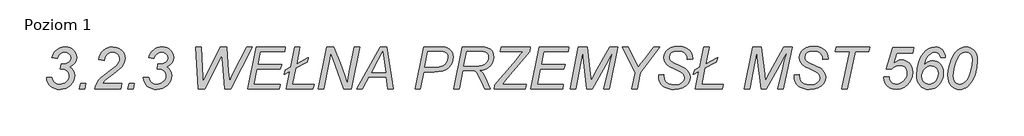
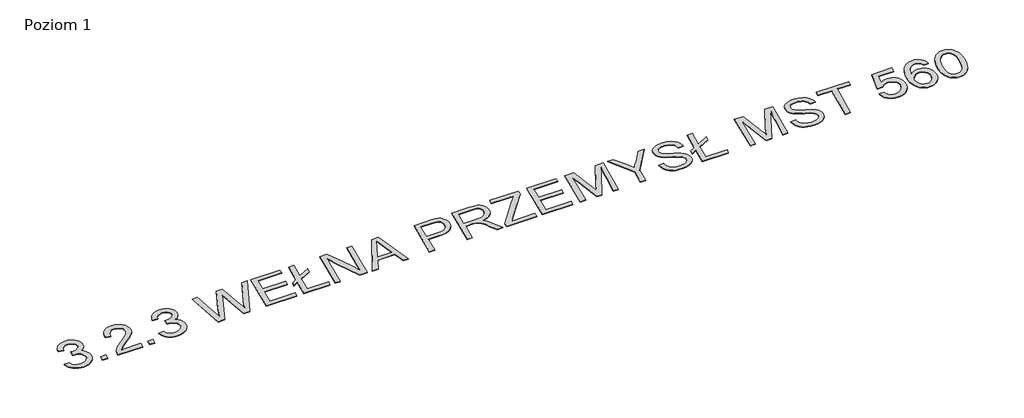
# One storey, part 2 of 2: 1 proxy.
"""IFC4 building model written with IfcOpenShell, lengths in millimetres."""

import ifcopenshell
import ifcopenshell.guid

model = None  # the IFC model being written
_history = None  # IfcOwnerHistory: only IFC2X3 demands one
_inside = {}  # id of a spatial element -> (the spatial element, [elements in it])
_under = {}  # id of a project, library or spatial element -> (it, [spatial elements below it])
_declared = {}  # id of a project -> (the project, [libraries it declares])
_typed = {}  # id of a type object -> (the type object, [elements of that type])
_made_of = {}  # id of a material, layer set ... -> (it, [elements and type objects made of it])


def new_model(schema):
    """Start an empty IFC model of exactly this schema.

    Asked for "IFC4X3", IfcOpenShell would pick the latest addendum, in which some entities
    have other attributes; the version numbers below select the first issue.
    IFC2X3 requires an IfcOwnerHistory on every rooted entity: one is made here for all.
    """
    global model, _history
    if schema == "IFC4X3":
        model = ifcopenshell.file(schema_version=(4, 3, 0, 0))
    else:
        model = ifcopenshell.file(schema=schema)
    _inside.clear()
    _under.clear()
    _declared.clear()
    _typed.clear()
    _made_of.clear()
    _history = None
    if model.schema == "IFC2X3":
        org = make("IfcOrganization", Name="unknown")
        user = make(
            "IfcPersonAndOrganization",
            ThePerson=make("IfcPerson", FamilyName="unknown"),
            TheOrganization=org,
        )
        app = make(
            "IfcApplication",
            ApplicationDeveloper=org,
            Version="unknown",
            ApplicationFullName="unknown",
            ApplicationIdentifier="unknown",
        )
        _history = make(
            "IfcOwnerHistory",
            OwningUser=user,
            OwningApplication=app,
            ChangeAction="ADDED",
            CreationDate=0,
        )
    return model


def make(cls, **values):
    """One entity of the class cls with the attributes given. An attribute that is None is left unset."""
    return model.create_entity(
        cls, **{name: value for name, value in values.items() if value is not None}
    )


def rooted(cls, **values):
    """An entity with a GlobalId (a new one), such as an element, a storey or a relation."""
    return make(cls, GlobalId=ifcopenshell.guid.new(), OwnerHistory=_history, **values)


def si_unit(unit_type, name, prefix=None):
    """IfcSIUnit, for example si_unit("LENGTHUNIT", "METRE", prefix="MILLI")."""
    return make("IfcSIUnit", UnitType=unit_type, Prefix=prefix, Name=name)


def assignment(units):
    """IfcUnitAssignment: the units of a project."""
    return None if units is None else make("IfcUnitAssignment", Units=units)


def point(xyz):
    """IfcCartesianPoint."""
    return None if xyz is None else make("IfcCartesianPoint", Coordinates=xyz)


def direction(xyz):
    """IfcDirection."""
    return None if xyz is None else make("IfcDirection", DirectionRatios=xyz)


def frame(location, z_axis=None, x_axis=None):
    """IfcAxis2Placement3D, a coordinate frame: its origin and axes. An axis left out is left unset."""
    return make(
        "IfcAxis2Placement3D",
        Location=point(location),
        Axis=direction(z_axis),
        RefDirection=direction(x_axis),
    )


def origin():
    """The frame at (0, 0, 0) with its axes left unset."""
    return frame((0.0, 0.0, 0.0))


def origin_with_axes():
    """The frame at (0, 0, 0) with the z axis (0, 0, 1) and the x axis (1, 0, 0) written out."""
    return frame((0.0, 0.0, 0.0), z_axis=(0.0, 0.0, 1.0), x_axis=(1.0, 0.0, 0.0))


def place(relative_to, where):
    """IfcLocalPlacement: puts the frame where relative to a parent placement (None: the world)."""
    return make(
        "IfcLocalPlacement", PlacementRelTo=relative_to, RelativePlacement=where
    )


def context(
    kind, dimensions, precision=None, world=None, true_north=None, identifier=None
):
    """IfcGeometricRepresentationContext, for example the 3D "Model" context."""
    return make(
        "IfcGeometricRepresentationContext",
        ContextIdentifier=identifier,
        ContextType=kind,
        CoordinateSpaceDimension=dimensions,
        Precision=precision,
        WorldCoordinateSystem=world,
        TrueNorth=true_north,
    )


def project(units=None, contexts=None):
    """IfcProject with its units and contexts."""
    return rooted(
        "IfcProject",
        Name="project",
        RepresentationContexts=contexts,
        UnitsInContext=assignment(units),
    )


def spatial(cls, under=None, at=None, **own):
    """A site, building, storey or space (cls), placed at a placement, below another one or the project."""
    s = rooted(cls, ObjectPlacement=at, **own)
    if under is not None:
        _under.setdefault(under.id(), (under, []))[1].append(s)
    return s


def polyline(points):
    """IfcPolyline through the points."""
    return make("IfcPolyline", Points=[point(p) for p in points])


def outline(outer, holes=None, kind="AREA"):
    """IfcArbitraryClosedProfileDef: a profile drawn as a closed curve; with holes, ...WithVoids."""
    if holes is None:
        return make("IfcArbitraryClosedProfileDef", ProfileType=kind, OuterCurve=outer)
    return make(
        "IfcArbitraryProfileDefWithVoids",
        ProfileType=kind,
        OuterCurve=outer,
        InnerCurves=holes,
    )


def extrude(swept, where, along, depth):
    """IfcExtrudedAreaSolid: the profile swept, set in the frame where, extruded along a direction by depth."""
    return make(
        "IfcExtrudedAreaSolid",
        SweptArea=swept,
        Position=where,
        ExtrudedDirection=direction(along),
        Depth=depth,
    )


def shape(context_of_items, identifier, shape_type, items):
    """IfcShapeRepresentation: the items that make up one representation, for example the "Body"."""
    return make(
        "IfcShapeRepresentation",
        ContextOfItems=context_of_items,
        RepresentationIdentifier=identifier,
        RepresentationType=shape_type,
        Items=items,
    )


def made_of(thing, what):
    """Note that an element or type object is made of a material, layer set ...; save() writes the relation."""
    if what is not None:
        _made_of.setdefault(what.id(), (what, []))[1].append(thing)
    return thing


def element(
    cls,
    number,
    at=None,
    inside=None,
    cuts=None,
    type_object=None,
    material=None,
    context=None,
    identifier="Body",
    shape_type=None,
    held_by="IfcProductDefinitionShape",
    body=None,
    shapes=None,
    **own,
):
    """One element of the class cls, such as IfcWall. Its Tag is "e" and its number.

    at: its placement. inside: the storey or other place that contains it. cuts: it is an
    opening in that element (IfcRelVoidsElement). A single representation is given by context,
    identifier, shape_type and body (its items); several are given by shapes. held_by: the class
    of the entity that holds the representations. save() writes the other relations.
    """
    e = rooted(cls, Tag="e%d" % number, ObjectPlacement=at, **own)
    if body is not None:
        shapes = [shape(context, identifier, shape_type, body)]
    if shapes is not None:
        e.Representation = make(held_by, Representations=shapes)
    if inside is not None:
        _inside.setdefault(inside.id(), (inside, []))[1].append(e)
    if cuts is not None:
        rooted(
            "IfcRelVoidsElement", RelatingBuildingElement=cuts, RelatedOpeningElement=e
        )
    if type_object is not None:
        _typed.setdefault(type_object.id(), (type_object, []))[1].append(e)
    return made_of(e, material)


def aggregate(whole, parts):
    """IfcRelAggregates: a whole, such as a stair, and the parts it consists of."""
    return rooted("IfcRelAggregates", RelatingObject=whole, RelatedObjects=parts)


def save(model, path):
    """Write the relations noted so far, then the file.

    IfcRelAggregates (storeys below a building ...), IfcRelContainedInSpatialStructure (elements
    in a storey), IfcRelDefinesByType, IfcRelAssociatesMaterial and IfcRelDeclares: one each for
    every whole, place, type object, material and project.
    """
    for whole, parts in _under.values():
        aggregate(whole, parts)
    for where, things in _inside.values():
        rooted(
            "IfcRelContainedInSpatialStructure",
            RelatedElements=things,
            RelatingStructure=where,
        )
    for kind, things in _typed.values():
        rooted("IfcRelDefinesByType", RelatedObjects=things, RelatingType=kind)
    for what, things in _made_of.values():
        rooted("IfcRelAssociatesMaterial", RelatedObjects=things, RelatingMaterial=what)
    for by, libraries in _declared.values():
        rooted("IfcRelDeclares", RelatingContext=by, RelatedDefinitions=libraries)
    model.write(path)


model = new_model("IFC4")

# Units and contexts
model_context = context("Model", 3, world=origin())
ifc_project = project(units=[si_unit("LENGTHUNIT", "METRE", prefix="MILLI")], contexts=[model_context])

# Site, building, storey
site = spatial("IfcSite", under=ifc_project)
building = spatial("IfcBuilding", under=site)
storey = spatial("IfcBuildingStorey", under=building, Name="Poziom 1", Elevation=0.0)

# Proxy
placement = place(None, origin())
element("IfcBuildingElementProxy", 1, Name="400 mm Arial", ObjectType="400 mm Arial", at=placement, inside=storey, context=model_context, shape_type="SweptSolid", body=[
    extrude(outline(polyline([(12935.3811978, 3434.5109693), (12984.3508948, 3434.5109693), (12993.2457811, 3406.3557846), (13008.8357432, 3387.501973), (13030.7382054, 3376.8496293), (13058.5705917, 3373.298848), (13093.1458758, 3379.2765943), (13108.5325946, 3386.748777), (13122.6520311, 3397.2098329), (13134.4521021, 3409.6017008), (13142.8807243, 3422.8663196), (13147.9378976, 3437.0036894), (13149.623622, 3452.0138102), (13144.7696921, 3476.6301691), (13130.2079023, 3496.536064), (13107.4685557, 3509.6990611), (13078.0819554, 3514.0867268), (13062.6832811, 3514.0867268), (13070.9086599, 3563.9172193), (13084.2031675, 3563.0564238), (13120.440265, 3567.2169352), (13146.7064819, 3579.6984693), (13162.6670643, 3598.2294825), (13167.9872584, 3620.5384314), (13163.4680823, 3641.0540564), (13149.9105539, 3658.0308556), (13129.8014156, 3669.4363954), (13105.6274099, 3673.238242), (13081.3577603, 3669.3527069), (13059.6226751, 3657.6961018), (13042.8132527, 3638.9379342), (13033.3205917, 3613.7477117), (12984.3508948, 3621.6861587), (12991.5929343, 3644.3328502), (13001.5548484, 3664.2596672), (13014.2366369, 3681.4666096), (13029.6383001, 3695.9536776), (13047.1680408, 3707.4399169), (13066.2340624, 3715.6443736), (13086.8363647, 3720.5670476), (13108.9749478, 3722.207939), (13131.9324821, 3720.4564593), (13152.6005396, 3715.2020204), (13170.9791204, 3706.4446222), (13187.0682243, 3694.1842647), (13200.1445441, 3679.3714096), (13209.4847726, 3662.9565185), (13215.0889097, 3644.9395914), (13216.9569554, 3625.3206283), (13212.9996874, 3597.3806426), (13201.1278834, 3573.2425033), (13181.1980775, 3552.9062107), (13153.0668039, 3536.3717647), (13173.1042092, 3520.961135), (13187.3073342, 3502.6572761), (13195.7718228, 3481.484099), (13198.593319, 3457.4655147), (13196.0617435, 3431.3905857), (13188.4670169, 3407.1089806), (13175.8091393, 3384.6206994), (13158.0881107, 3363.925742), (13136.8461895, 3346.6022335), (13113.6256343, 3334.2282988), (13088.4264452, 3326.803938), (13061.248622, 3324.3291511), (13035.2095595, 3326.2061634), (13011.8007054, 3331.8372003), (12991.0220595, 3341.2222619), (12972.873622, 3354.361348), (12957.9053455, 3370.6327732), (12946.6671826, 3389.4148518), (12939.1591334, 3410.7075838), (12935.3811978, 3434.5109693)])), origin_with_axes(), (0.0, 0.0, 1.0), 5.0),
    extrude(outline(polyline([(13242.2069554, 3330.4503632), (13253.6842281, 3379.4200602), (13302.6539251, 3379.4200602), (13292.1330917, 3330.4503632), (13242.2069554, 3330.4503632)])), origin_with_axes(), (0.0, 0.0, 1.0), 5.0),
    extrude(outline(polyline([(13388.3508948, 3330.4503632), (13397.4729355, 3362.7062818), (13409.5360273, 3389.2713859), (13425.2933664, 3412.3813528), (13445.4981485, 3434.2718594), (13531.8168039, 3502.8963859), (13584.8991902, 3545.1710071), (13602.569408, 3564.7062818), (13614.6444554, 3583.9068026), (13619.3788304, 3597.392598), (13620.9569554, 3612.0261208), (13616.067159, 3635.6382183), (13601.3977698, 3655.4006473), (13579.6029071, 3668.7788433), (13553.3366902, 3673.238242), (13526.9748294, 3668.7190658), (13504.1278834, 3655.1615374), (13486.0631343, 3631.6092174), (13474.0478645, 3597.1056662), (13425.0781675, 3603.6094541), (13430.3236398, 3629.6963386), (13438.9824052, 3652.8660829), (13451.0544637, 3673.1186871), (13466.5398152, 3690.4541511), (13484.7868855, 3704.3464333), (13505.1441003, 3714.269492), (13527.6114594, 3720.2233272), (13552.1889629, 3722.207939), (13584.8155018, 3718.6810687), (13614.2140576, 3708.1004579), (13638.5434847, 3691.1475696), (13655.9626372, 3668.503867), (13666.4356485, 3642.5963149), (13669.9266523, 3615.8518783), (13668.1572395, 3596.238893), (13662.8490008, 3576.996528), (13654.0019364, 3558.1247832), (13641.6160463, 3539.6236587), (13607.327694, 3508.0611587), (13539.2770311, 3455.8395677), (13484.9990955, 3411.8433556), (13458.1709705, 3379.4200602), (13639.3205917, 3379.4200602), (13629.6605539, 3330.4503632), (13388.3508948, 3330.4503632)])), origin_with_axes(), (0.0, 0.0, 1.0), 5.0),
    extrude(outline(polyline([(13695.1766523, 3330.4503632), (13706.6539251, 3379.4200602), (13755.623622, 3379.4200602), (13745.1027887, 3330.4503632), (13695.1766523, 3330.4503632)])), origin_with_axes(), (0.0, 0.0, 1.0), 5.0),
    extrude(outline(polyline([(13841.3205917, 3434.5109693), (13890.2902887, 3434.5109693), (13899.1851751, 3406.3557846), (13914.7751372, 3387.501973), (13936.6775993, 3376.8496293), (13964.5099857, 3373.298848), (13999.0852698, 3379.2765943), (14014.4719885, 3386.748777), (14028.5914251, 3397.2098329), (14040.3914961, 3409.6017008), (14048.8201182, 3422.8663196), (14053.8772915, 3437.0036894), (14055.563016, 3452.0138102), (14050.709086, 3476.6301691), (14036.1472963, 3496.536064), (14013.4079497, 3509.6990611), (13984.0213493, 3514.0867268), (13968.6226751, 3514.0867268), (13976.8480539, 3563.9172193), (13990.1425614, 3563.0564238), (14026.379659, 3567.2169352), (14052.6458758, 3579.6984693), (14068.6064582, 3598.2294825), (14073.9266523, 3620.5384314), (14069.4074762, 3641.0540564), (14055.8499478, 3658.0308556), (14035.7408095, 3669.4363954), (14011.5668039, 3673.238242), (13987.2971542, 3669.3527069), (13965.562069, 3657.6961018), (13948.7526467, 3638.9379342), (13939.2599857, 3613.7477117), (13890.2902887, 3621.6861587), (13897.5323282, 3644.3328502), (13907.4942423, 3664.2596672), (13920.1760309, 3681.4666096), (13935.577694, 3695.9536776), (13953.1074348, 3707.4399169), (13972.1734563, 3715.6443736), (13992.7757586, 3720.5670476), (14014.9143417, 3722.207939), (14037.8718761, 3720.4564593), (14058.5399336, 3715.2020204), (14076.9185143, 3706.4446222), (14093.0076182, 3694.1842647), (14106.0839381, 3679.3714096), (14115.4241665, 3662.9565185), (14121.0283036, 3644.9395914), (14122.8963493, 3625.3206283), (14118.9390813, 3597.3806426), (14107.0672773, 3573.2425033), (14087.1374715, 3552.9062107), (14059.0061978, 3536.3717647), (14079.0436031, 3520.961135), (14093.2467281, 3502.6572761), (14101.7112167, 3481.484099), (14104.5327129, 3457.4655147), (14102.0011374, 3431.3905857), (14094.4064109, 3407.1089806), (14081.7485333, 3384.6206994), (14064.0275046, 3363.925742), (14042.7855834, 3346.6022335), (14019.5650283, 3334.2282988), (13994.3658391, 3326.803938), (13967.188016, 3324.3291511), (13941.1489535, 3326.2061634), (13917.7400993, 3331.8372003), (13896.9614535, 3341.2222619), (13878.813016, 3354.361348), (13863.8447395, 3370.6327732), (13852.6065766, 3389.4148518), (13845.0985273, 3410.7075838), (13841.3205917, 3434.5109693)])), origin_with_axes(), (0.0, 0.0, 1.0), 5.0),
    extrude(outline(polyline([(14355.5024099, 3330.4503632), (14331.0175614, 3722.207939), (14379.9872584, 3722.207939), (14391.1775993, 3527.0943026), (14395.4815766, 3452.205098), (14396.8205917, 3428.1984693), (14401.4115008, 3397.7836965), (14446.842372, 3497.3490374), (14561.6150993, 3722.207939), (14618.7145311, 3722.207939), (14636.0260842, 3492.5668405), (14646.2599857, 3397.7836965), (14661.7543039, 3435.3717647), (14692.3603645, 3496.392598), (14805.9853645, 3722.207939), (14860.5024099, 3722.207939), (14656.5895311, 3330.4503632), (14600.3508948, 3330.4503632), (14581.7959705, 3566.7865374), (14572.8054402, 3642.6321814), (14546.8859326, 3585.6283935), (14416.4275993, 3330.4503632), (14355.5024099, 3330.4503632)])), origin_with_axes(), (0.0, 0.0, 1.0), 5.0),
    extrude(outline(polyline([(14814.593319, 3330.4503632), (14894.1690766, 3722.207939), (15169.623622, 3722.207939), (15163.406766, 3679.3594541), (14935.2003266, 3679.3594541), (14910.3329023, 3556.9352117), (15132.8963493, 3556.9352117), (15120.6539251, 3514.0867268), (14901.6293039, 3514.0867268), (14873.031766, 3373.298848), (15118.5497584, 3373.298848), (15109.3679402, 3330.4503632), (14814.593319, 3330.4503632)])), origin_with_axes(), (0.0, 0.0, 1.0), 5.0),
    extrude(outline(polyline([(15208.7419932, 3493.0450602), (15157.3811978, 3465.1170299), (15169.623622, 3507.9655147), (15217.063016, 3533.7893783), (15255.3205917, 3722.207939), (15305.0554402, 3722.207939), (15272.9190766, 3564.0128632), (15383.8660463, 3624.268545), (15371.623622, 3581.4200602), (15264.6936978, 3523.364189), (15234.1832811, 3373.298848), (15438.9569554, 3373.298848), (15426.7145311, 3330.4503632), (15175.7448342, 3330.4503632), (15208.7419932, 3493.0450602)])), origin_with_axes(), (0.0, 0.0, 1.0), 5.0),
    extrude(outline(polyline([(15475.6842281, 3330.4503632), (15555.2599857, 3722.207939), (15622.593319, 3722.207939), (15681.8925614, 3570.612295), (15724.9323342, 3453.831045), (15746.0696448, 3379.4200602), (15767.6851751, 3490.5583177), (15812.7334705, 3722.207939), (15862.3726751, 3722.207939), (15786.2400993, 3330.4503632), (15713.9332811, 3330.4503632), (15632.9228645, 3555.5005526), (15593.4219175, 3665.0128632), (15573.8149099, 3568.3168405), (15525.4190766, 3330.4503632), (15475.6842281, 3330.4503632)])), origin_with_axes(), (0.0, 0.0, 1.0), 5.0),
    extrude(outline(polyline([(15834.6359326, 3330.4503632), (16053.8518417, 3722.207939), (16115.8291145, 3722.207939), (16177.5194554, 3330.4503632), (16128.0715387, 3330.4503632), (16112.3859326, 3440.6321814), (15949.313016, 3440.6321814), (15889.5355539, 3330.4503632), (15834.6359326, 3330.4503632)]), holes=[polyline([(15974.6586599, 3483.4806662), (16106.3603645, 3483.4806662), (16092.5876372, 3581.4200602), (16078.623622, 3679.3594541), (16035.4882054, 3599.7836965), (15974.6586599, 3483.4806662)])]), origin_with_axes(), (0.0, 0.0, 1.0), 5.0),
    extrude(outline(polyline([(16381.623622, 3330.4503632), (16460.8168039, 3722.207939), (16624.0810084, 3722.207939), (16661.1669459, 3719.7690185), (16687.6842281, 3712.4522571), (16707.0760368, 3699.2294825), (16722.7855539, 3679.0725223), (16733.1868323, 3654.0138102), (16736.6539251, 3626.0857799), (16734.1791381, 3601.5889759), (16726.7547773, 3576.6856852), (16715.5524809, 3553.7789617), (16701.7438872, 3535.2718594), (16686.5365008, 3520.9730905), (16671.1378266, 3510.691367), (16637.9493796, 3498.4011208), (16600.0504686, 3491.801689), (16561.7211599, 3489.6018783), (16463.5904781, 3489.6018783), (16431.4541145, 3330.4503632), (16381.623622, 3330.4503632)]), holes=[polyline([(16472.2940766, 3532.4503632), (16560.2865008, 3532.4503632), (16604.6533332, 3535.1762155), (16635.4148152, 3543.3537723), (16656.9227461, 3557.1145441), (16673.5289251, 3576.5900412), (16684.1454023, 3599.6043641), (16687.6842281, 3623.9816132), (16685.7713493, 3641.5322761), (16680.0327129, 3655.5441132), (16670.8030728, 3666.172546), (16658.4171826, 3673.5729958), (16638.0450235, 3677.9128395), (16604.8565766, 3679.3594541), (16502.0393417, 3679.3594541), (16472.2940766, 3532.4503632)])]), origin_with_axes(), (0.0, 0.0, 1.0), 5.0),
    extrude(outline(polyline([(16742.7751372, 3330.4503632), (16822.3508948, 3722.207939), (16987.8149099, 3722.207939), (17030.8666381, 3720.1276833), (17062.0824289, 3713.8869162), (17084.6543985, 3701.9075128), (17101.7746637, 3682.611348), (17112.5704734, 3656.6679295), (17116.1690766, 3624.7467647), (17114.2322868, 3601.349866), (17108.4219175, 3580.033223), (17098.7379686, 3560.7968357), (17085.1804402, 3543.6407041), (17067.3010013, 3528.9414262), (17044.6513209, 3517.0755999), (17017.231399, 3508.0432254), (16985.0412357, 3501.8443026), (17003.7635368, 3487.5216227), (17017.2732432, 3473.4380526), (17036.4259421, 3438.2171719), (17051.4181296, 3401.800742), (17085.467372, 3330.4503632), (17032.0024099, 3330.4503632), (16997.7618796, 3402.1833177), (16982.6262262, 3438.5758367), (16965.529872, 3469.707939), (16951.9364771, 3486.0989191), (16937.7453076, 3495.6752685), (16918.7480302, 3500.3020441), (16890.7363114, 3501.8443026), (16827.3243796, 3501.8443026), (16792.5099857, 3330.4503632), (16742.7751372, 3330.4503632)]), holes=[polyline([(16836.0279781, 3544.6927874), (16911.1084705, 3544.6927874), (16978.9200235, 3544.6927874), (17005.879659, 3549.6662723), (17027.4593228, 3558.4655147), (17044.2328787, 3571.0307373), (17056.7741902, 3587.3021624), (17064.5930823, 3606.108152), (17067.1993796, 3626.2770677), (17065.2147679, 3642.7397808), (17059.2609326, 3656.9309503), (17050.0791145, 3667.8941369), (17038.4105539, 3674.6729011), (17020.9794459, 3678.1878158), (16994.5099857, 3679.3594541), (16863.3821448, 3679.3594541), (16836.0279781, 3544.6927874)])]), origin_with_axes(), (0.0, 0.0, 1.0), 5.0),
    extrude(outline(polyline([(17122.2902887, 3330.4503632), (17128.4115008, 3367.1776359), (17325.2467281, 3601.5052874), (17366.1823342, 3649.9967647), (17390.7628266, 3679.3594541), (17355.6615008, 3679.3594541), (17342.6539251, 3679.3594541), (17326.968319, 3679.3594541), (17311.5696448, 3679.3594541), (17178.3376372, 3679.3594541), (17187.6150993, 3722.207939), (17458.9569554, 3722.207939), (17453.8878266, 3681.176689), (17243.375516, 3430.6852117), (17195.1709705, 3373.298848), (17210.0914251, 3373.298848), (17419.7429402, 3373.298848), (17410.4654781, 3330.4503632), (17122.2902887, 3330.4503632)])), origin_with_axes(), (0.0, 0.0, 1.0), 5.0),
    extrude(outline(polyline([(17465.0781675, 3330.4503632), (17544.6539251, 3722.207939), (17820.1084705, 3722.207939), (17813.8916145, 3679.3594541), (17585.6851751, 3679.3594541), (17560.8177508, 3556.9352117), (17783.3811978, 3556.9352117), (17771.1387735, 3514.0867268), (17552.1141523, 3514.0867268), (17523.5166145, 3373.298848), (17769.0346069, 3373.298848), (17759.8527887, 3330.4503632), (17465.0781675, 3330.4503632)])), origin_with_axes(), (0.0, 0.0, 1.0), 5.0),
    extrude(outline(polyline([(17831.6813872, 3330.4503632), (17908.1008948, 3722.207939), (17991.5980539, 3722.207939), (18021.2476751, 3468.9427874), (18028.0383948, 3404.7657041), (18067.9219175, 3482.8111587), (18200.3887735, 3722.207939), (18277.8603645, 3722.207939), (18194.7457811, 3330.4503632), (18144.5327129, 3330.4503632), (18190.5374478, 3518.6776359), (18205.7209232, 3590.6975223), (18231.3774099, 3673.238242), (18204.0710652, 3630.7484219), (18180.686122, 3587.2543405), (18038.4635842, 3330.4503632), (17988.250516, 3330.4503632), (17958.8878266, 3581.611348), (17948.1757054, 3673.238242), (17929.812069, 3578.8376738), (17881.3205917, 3330.4503632), (17831.6813872, 3330.4503632)])), origin_with_axes(), (0.0, 0.0, 1.0), 5.0),
    extrude(outline(polyline([(18407.7448342, 3330.4503632), (18438.1596069, 3480.4200602), (18319.8480539, 3722.207939), (18373.4086599, 3722.207939), (18430.7950235, 3609.1568026), (18467.5222963, 3529.9636208), (18490.6442186, 3565.973564), (18523.4740008, 3604.7571814), (18611.3707811, 3722.207939), (18670.5743796, 3722.207939), (18487.0336599, 3476.4986587), (18457.4796826, 3330.4503632), (18407.7448342, 3330.4503632)])), origin_with_axes(), (0.0, 0.0, 1.0), 5.0),
    extrude(outline(polyline([(18658.7145311, 3458.9958177), (18707.6842281, 3465.1170299), (18707.1103645, 3450.9617268), (18709.6927508, 3428.5093121), (18717.4399099, 3408.017598), (18731.1409042, 3390.7180005), (18751.5847963, 3377.8419352), (18777.6238588, 3369.8437107), (18808.1103645, 3367.1776359), (18849.15357, 3372.3424087), (18865.523628, 3378.7983746), (18879.1259895, 3387.8367268), (18897.4537593, 3409.9543878), (18903.563016, 3434.989189), (18900.358944, 3452.6594068), (18890.7467281, 3468.7514996), (18866.4531675, 3486.3499844), (18819.5876372, 3509.3045299), (18757.9929402, 3539.9105905), (18735.5644364, 3557.987295), (18719.9266523, 3577.5943026), (18710.7448342, 3599.4250318), (18707.6842281, 3624.1729011), (18711.6654071, 3652.770439), (18723.608944, 3678.4986587), (18743.2159516, 3699.9109456), (18770.1875425, 3715.5606852), (18802.8140813, 3725.1370346), (18839.3859326, 3728.3291511), (18881.7801088, 3724.2284172), (18916.9531675, 3711.9262155), (18944.1877792, 3692.7854721), (18962.7666145, 3668.1691132), (18973.4548247, 3641.4366321), (18977.0175614, 3615.9475223), (18977.0175614, 3607.7221435), (18928.0478645, 3603.6094541), (18925.2741902, 3630.676689), (18918.7106249, 3646.4459835), (18909.3494743, 3659.5133367), (18896.5810084, 3670.081992), (18879.795497, 3678.3551927), (18859.8896021, 3683.6992979), (18837.7599857, 3685.4806662), (18801.3674667, 3680.6506473), (18786.5785226, 3674.6131236), (18774.061122, 3666.1605905), (18761.0057243, 3649.0164143), (18756.6539251, 3627.0422193), (18758.4592044, 3613.3651359), (18763.8750425, 3601.2183556), (18774.0013446, 3589.9323708), (18789.938016, 3578.8376738), (18853.5412357, 3548.1359693), (18909.779872, 3518.8689238), (18927.9761315, 3503.2311397), (18941.438016, 3484.6283935), (18949.7590387, 3463.1563291), (18952.5327129, 3438.9105905), (18947.8222489, 3408.4599513), (18933.6908569, 3380.4243215), (18911.2503976, 3356.6448471), (18881.6127319, 3338.9626738), (18845.973409, 3327.9875318), (18805.5279781, 3324.3291511), (18774.6439523, 3326.1583414), (18746.7428218, 3331.6459124), (18721.8245868, 3340.7918641), (18699.889247, 3353.5961965), (18681.9829083, 3371.1588149), (18669.151676, 3394.5796246), (18661.3955503, 3423.8586255), (18658.7145311, 3458.9958177)])), origin_with_axes(), (0.0, 0.0, 1.0), 5.0),
    extrude(outline(polyline([(19034.499569, 3493.0450602), (18983.1387735, 3465.1170299), (18995.3811978, 3507.9655147), (19042.8205917, 3533.7893783), (19081.0781675, 3722.207939), (19130.813016, 3722.207939), (19098.6766523, 3564.0128632), (19209.623622, 3624.268545), (19197.3811978, 3581.4200602), (19090.4512735, 3523.364189), (19059.9408569, 3373.298848), (19264.7145311, 3373.298848), (19252.4721069, 3330.4503632), (19001.5024099, 3330.4503632), (19034.499569, 3493.0450602)])), origin_with_axes(), (0.0, 0.0, 1.0), 5.0),
    extrude(outline(polyline([(19459.9238114, 3330.4503632), (19536.343319, 3722.207939), (19619.8404781, 3722.207939), (19649.4900993, 3468.9427874), (19656.280819, 3404.7657041), (19696.1643417, 3482.8111587), (19828.6311978, 3722.207939), (19906.1027887, 3722.207939), (19822.9882054, 3330.4503632), (19772.7751372, 3330.4503632), (19818.779872, 3518.6776359), (19833.9633474, 3590.6975223), (19859.6198342, 3673.238242), (19832.3134895, 3630.7484219), (19808.9285463, 3587.2543405), (19666.7060084, 3330.4503632), (19616.4929402, 3330.4503632), (19587.1302508, 3581.611348), (19576.4181296, 3673.238242), (19558.0544932, 3578.8376738), (19509.563016, 3330.4503632), (19459.9238114, 3330.4503632)])), origin_with_axes(), (0.0, 0.0, 1.0), 5.0),
    extrude(outline(polyline([(19925.8054402, 3458.9958177), (19974.7751372, 3465.1170299), (19974.2012735, 3450.9617268), (19976.7836599, 3428.5093121), (19984.530819, 3408.017598), (19998.2318133, 3390.7180005), (20018.6757054, 3377.8419352), (20044.7147679, 3369.8437107), (20075.2012735, 3367.1776359), (20116.244479, 3372.3424087), (20132.614537, 3378.7983746), (20146.2168985, 3387.8367268), (20164.5446684, 3409.9543878), (20170.6539251, 3434.989189), (20167.4498531, 3452.6594068), (20157.8376372, 3468.7514996), (20133.5440766, 3486.3499844), (20086.6785463, 3509.3045299), (20025.0838493, 3539.9105905), (20002.6553455, 3557.987295), (19987.0175614, 3577.5943026), (19977.8357432, 3599.4250318), (19974.7751372, 3624.1729011), (19978.7563162, 3652.770439), (19990.6998531, 3678.4986587), (20010.3068607, 3699.9109456), (20037.2784516, 3715.5606852), (20069.9049904, 3725.1370346), (20106.4768417, 3728.3291511), (20148.8710179, 3724.2284172), (20184.0440766, 3711.9262155), (20211.2786883, 3692.7854721), (20229.8575235, 3668.1691132), (20240.5457338, 3641.4366321), (20244.1084705, 3615.9475223), (20244.1084705, 3607.7221435), (20195.1387735, 3603.6094541), (20192.3650993, 3630.676689), (20185.801534, 3646.4459835), (20176.4403834, 3659.5133367), (20163.6719175, 3670.081992), (20146.8864061, 3678.3551927), (20126.9805112, 3683.6992979), (20104.8508948, 3685.4806662), (20068.4583758, 3680.6506473), (20053.6694317, 3674.6131236), (20041.1520311, 3666.1605905), (20028.0966334, 3649.0164143), (20023.7448342, 3627.0422193), (20025.5501135, 3613.3651359), (20030.9659516, 3601.2183556), (20041.0922537, 3589.9323708), (20057.0289251, 3578.8376738), (20120.6321448, 3548.1359693), (20176.8707811, 3518.8689238), (20195.0670406, 3503.2311397), (20208.5289251, 3484.6283935), (20216.8499478, 3463.1563291), (20219.623622, 3438.9105905), (20214.913158, 3408.4599513), (20200.781766, 3380.4243215), (20178.3413067, 3356.6448471), (20148.703641, 3338.9626738), (20113.0643181, 3327.9875318), (20072.6188872, 3324.3291511), (20041.7348614, 3326.1583414), (20013.8337309, 3331.6459124), (19988.9154959, 3340.7918641), (19966.9801561, 3353.5961965), (19949.0738173, 3371.1588149), (19936.2425851, 3394.5796246), (19928.4864594, 3423.8586255), (19925.8054402, 3458.9958177)])), origin_with_axes(), (0.0, 0.0, 1.0), 5.0),
    extrude(outline(polyline([(20372.6539251, 3330.4503632), (20446.7779781, 3679.3594541), (20311.4418039, 3679.3594541), (20320.719266, 3722.207939), (20632.8054402, 3722.207939), (20623.5279781, 3679.3594541), (20496.6084705, 3679.3594541), (20422.4844175, 3330.4503632), (20372.6539251, 3330.4503632)])), origin_with_axes(), (0.0, 0.0, 1.0), 5.0),
    extrude(outline(polyline([(20764.6984326, 3440.6321814), (20813.9550614, 3440.6321814), (20813.3811978, 3430.6852117), (20815.7244743, 3416.6614191), (20822.7543039, 3402.5180715), (20833.8131343, 3389.9887155), (20848.2434137, 3380.8068973), (20864.8017707, 3375.1758604), (20882.2448342, 3373.298848), (20905.9884421, 3376.8854958), (20930.1624478, 3387.645439), (20952.2322868, 3405.2678348), (20969.6633948, 3429.4418405), (20980.9972016, 3456.7481852), (20984.7751372, 3483.767598), (20979.7060084, 3511.1576312), (20964.498622, 3532.4981852), (20941.0180349, 3546.235046), (20911.1293039, 3550.8139996), (20889.621373, 3548.3392126), (20869.2850804, 3540.9148518), (20851.9854828, 3529.2582467), (20839.5876372, 3514.0867268), (20788.8963493, 3514.0867268), (20848.9607432, 3716.0867268), (21042.5440766, 3716.0867268), (21033.1709705, 3667.1170299), (20885.1141523, 3667.1170299), (20856.5166145, 3571.0905147), (20873.7803455, 3583.6437818), (20891.5222963, 3592.6104011), (20909.7424667, 3597.9903727), (20928.4408569, 3599.7836965), (20950.4210297, 3597.912662), (20970.3568133, 3592.2995583), (20988.2482077, 3582.9443855), (21004.0952129, 3569.8471435), (21017.0669222, 3553.5039854), (21026.3324289, 3534.411064), (21031.8917328, 3512.5683793), (21033.7448342, 3487.9759314), (21028.6278834, 3444.1590516), (21013.2770311, 3403.9527306), (20988.971515, 3369.9991321), (20956.9905728, 3344.94042), (20919.7731249, 3329.4819683), (20879.7580917, 3324.3291511), (20846.8685321, 3328.0592647), (20818.0199289, 3339.2496056), (20794.5512972, 3356.9915564), (20777.8016523, 3380.3764996), (20767.7590387, 3406.582939), (20764.4115008, 3432.7893783), (20764.6984326, 3440.6321814)])), origin_with_axes(), (0.0, 0.0, 1.0), 5.0),
    extrude(outline(polyline([(21136.1794932, 3551.1009314), (21156.6951182, 3569.7514996), (21177.1150993, 3583.0460071), (21197.3916145, 3591.0083651), (21217.4768417, 3593.6624844), (21239.0266168, 3591.7466167), (21258.6276467, 3585.9990138), (21276.2799312, 3576.4196755), (21291.9834705, 3563.0086018), (21304.8714914, 3546.351612), (21314.0772205, 3527.0345251), (21319.600658, 3505.0573412), (21321.4418039, 3480.4200602), (21318.6980183, 3448.0924087), (21310.4666618, 3418.1558556), (21296.7477343, 3390.6104011), (21277.5412357, 3365.456045), (21257.5875188, 3347.4630289), (21235.6013682, 3334.6108746), (21211.582784, 3326.8995819), (21185.531766, 3324.3291511), (21161.9256462, 3326.5468949), (21140.3639156, 3333.2001265), (21120.8465742, 3344.2888457), (21103.373622, 3359.8130526), (21088.9792092, 3379.4379934), (21078.6974857, 3402.8289143), (21072.5284516, 3429.9858154), (21070.4721069, 3460.9086965), (21075.7564345, 3520.6383367), (21091.6094175, 3582.3764996), (21109.8774099, 3626.2651123), (21131.9711599, 3661.7131473), (21156.7309847, 3688.7923376), (21182.9972016, 3707.5744162), (21211.7501609, 3718.5495583), (21243.9702129, 3722.207939), (21263.4068548, 3720.6238362), (21280.972462, 3715.871528), (21296.6670347, 3707.9510142), (21310.4905728, 3696.862295), (21321.9887676, 3682.8205692), (21330.7073105, 3666.0410355), (21336.6462013, 3646.5236942), (21339.8054402, 3624.268545), (21295.1397205, 3624.268545), (21288.6239771, 3646.5894494), (21276.7282622, 3661.7131473), (21260.5524809, 3670.3569683), (21241.1965387, 3673.238242), (21219.0310557, 3669.1494636), (21196.7221069, 3656.8831283), (21175.9195501, 3636.5946577), (21158.2732432, 3608.439473), (21144.7157148, 3578.0605668), (21136.1794932, 3551.1009314)]), holes=[polyline([(21119.4418039, 3443.7884314), (21124.5467991, 3416.3266653), (21139.8617849, 3393.6231852), (21161.6088256, 3378.3799323), (21186.0099857, 3373.298848), (21204.6007764, 3376.3953206), (21224.2197395, 3385.6847382), (21242.8344412, 3401.2986113), (21258.4124478, 3423.3684503), (21268.9571921, 3448.6064948), (21272.4721069, 3473.7249844), (21267.594266, 3502.7409645), (21252.9607432, 3525.3248897), (21231.4408569, 3539.850813), (21205.9039251, 3544.6927874), (21190.2631521, 3542.9263634), (21175.190265, 3537.6270914), (21146.7481485, 3516.4300033), (21134.8016227, 3501.2913611), (21126.26839, 3484.1382183), (21121.1484504, 3464.9705751), (21119.4418039, 3443.7884314)])]), origin_with_axes(), (0.0, 0.0, 1.0), 5.0),
    extrude(outline(polyline([(21364.2902887, 3458.8045299), (21368.0682243, 3508.6469778), (21379.4020311, 3559.2784882), (21395.350658, 3605.1875791), (21412.9730539, 3640.8627685), (21431.7790434, 3668.0973802), (21451.2784516, 3688.6847382), (21470.9571921, 3703.6649702), (21490.3011789, 3714.0782041), (21510.5418275, 3720.1755052), (21532.9105539, 3722.207939), (21554.7831272, 3720.1306721), (21574.7786883, 3713.8988717), (21592.8972371, 3703.5125377), (21609.1387735, 3688.97167), (21622.5289251, 3670.5094008), (21632.093319, 3648.3588623), (21637.8319554, 3622.5200542), (21639.7448342, 3592.9929768), (21634.4365955, 3528.7680715), (21618.5118796, 3465.2126738), (21604.7989298, 3430.0635261), (21588.6231485, 3399.6009314), (21569.9845359, 3373.8248897), (21548.8830917, 3352.7354011), (21531.165052, 3340.3076667), (21512.2514629, 3331.4307136), (21492.1423247, 3326.1045417), (21470.8376372, 3324.3291511), (21449.2848732, 3326.4811397), (21429.4835889, 3332.9371056), (21411.4337842, 3343.6970488), (21395.1354592, 3358.7609693), (21381.6406971, 3377.9256236), (21372.0015813, 3400.9877685), (21366.2181119, 3427.9474039), (21364.2902887, 3458.8045299)]), holes=[polyline([(21413.2599857, 3451.7268783), (21416.2488588, 3421.9098802), (21425.2154781, 3399.4096435), (21434.3315411, 3387.9861705), (21445.4202603, 3379.8265469), (21458.4816358, 3374.9307728), (21473.5156675, 3373.298848), (21500.2003266, 3379.2048613), (21524.3982432, 3396.9229011), (21539.9164724, 3415.4569032), (21553.3783569, 3437.8704626), (21564.7838967, 3464.1635793), (21574.1330917, 3494.3362533), (21586.6146258, 3552.6671009), (21590.7751372, 3599.2098329), (21586.7461362, 3633.031921), (21574.6591334, 3655.878867), (21555.9726987, 3668.8983982), (21532.1454023, 3673.238242), (21513.5665671, 3670.9427874), (21496.2789251, 3664.0564238), (21479.9955444, 3651.5748897), (21464.4294932, 3632.4939238), (21444.224711, 3593.1842647), (21426.8414251, 3538.1889996), (21416.6553455, 3489.7453443), (21413.2599857, 3451.7268783)])]), origin_with_axes(), (0.0, 0.0, 1.0), 5.0),
])

save(model, "model.ifc")
